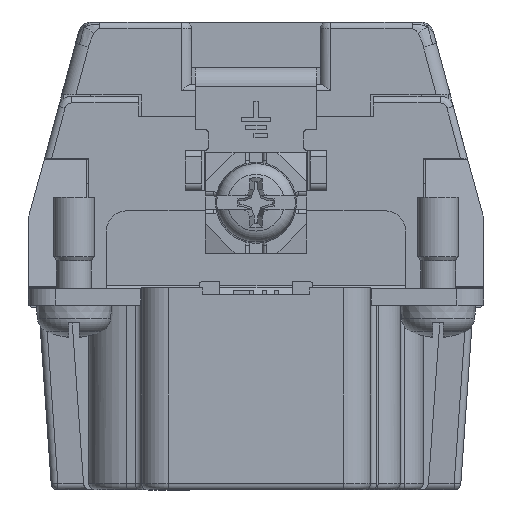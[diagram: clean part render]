
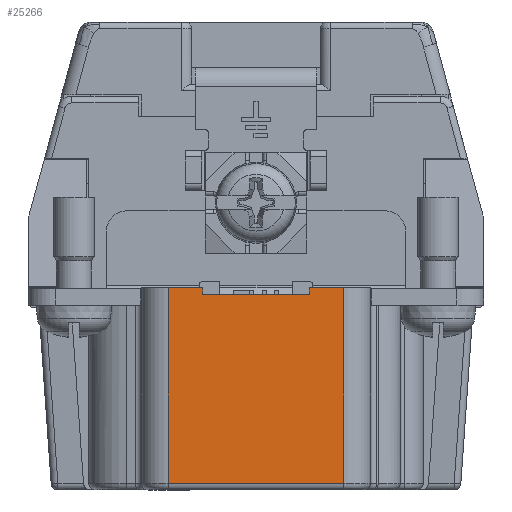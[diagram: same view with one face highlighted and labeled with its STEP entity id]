
A CAD part, left-side view. The second image highlights one B-rep face of the part: STEP entity #25266.
In plain terms, the highlighted planar face has unit normal (-1, 0, 0).
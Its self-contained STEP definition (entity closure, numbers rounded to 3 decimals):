
#17628=CARTESIAN_POINT('',(-41.35,3.95,-7.1));
#17629=VERTEX_POINT('',#17628);
#17670=CARTESIAN_POINT('',(-41.35,6.5,-7.1));
#17671=VERTEX_POINT('',#17670);
#17679=CARTESIAN_POINT('',(-41.35,3.95,-7.1));
#17680=DIRECTION('',(0.0,1.0,0.0));
#17681=VECTOR('',#17680,2.55);
#17682=LINE('',#17679,#17681);
#17683=EDGE_CURVE('',#17629,#17671,#17682,.T.);
#18025=CARTESIAN_POINT('',(-41.35,-3.95,-7.1));
#18026=VERTEX_POINT('',#18025);
#18033=CARTESIAN_POINT('',(-41.35,-6.5,-7.1));
#18034=VERTEX_POINT('',#18033);
#18035=CARTESIAN_POINT('',(-41.35,-6.5,-7.1));
#18036=DIRECTION('',(0.0,1.0,0.0));
#18037=VECTOR('',#18036,2.55);
#18038=LINE('',#18035,#18037);
#18039=EDGE_CURVE('',#18034,#18026,#18038,.T.);
#18311=CARTESIAN_POINT('',(-41.35,-3.95,-7.6));
#18312=VERTEX_POINT('',#18311);
#18313=CARTESIAN_POINT('',(-41.35,3.95,-7.6));
#18314=VERTEX_POINT('',#18313);
#18315=CARTESIAN_POINT('',(-41.35,-3.95,-7.6));
#18316=DIRECTION('',(0.0,1.0,0.0));
#18317=VECTOR('',#18316,7.9);
#18318=LINE('',#18315,#18317);
#18319=EDGE_CURVE('',#18312,#18314,#18318,.T.);
#18479=CARTESIAN_POINT('',(-41.35,3.95,-7.6));
#18480=DIRECTION('',(0.0,0.0,1.0));
#18481=VECTOR('',#18480,0.5);
#18482=LINE('',#18479,#18481);
#18483=EDGE_CURVE('',#18314,#17629,#18482,.T.);
#18494=CARTESIAN_POINT('',(-41.35,-3.95,-7.1));
#18495=DIRECTION('',(0.0,0.0,-1.0));
#18496=VECTOR('',#18495,0.5);
#18497=LINE('',#18494,#18496);
#18498=EDGE_CURVE('',#18026,#18312,#18497,.T.);
#25219=CARTESIAN_POINT('',(-41.35,-6.5,-21.6));
#25220=VERTEX_POINT('',#25219);
#25230=CARTESIAN_POINT('',(-41.35,-6.5,-7.1));
#25231=DIRECTION('',(0.0,0.0,-1.0));
#25232=VECTOR('',#25231,14.5);
#25233=LINE('',#25230,#25232);
#25234=EDGE_CURVE('',#18034,#25220,#25233,.T.);
#25239=CARTESIAN_POINT('',(-41.35,6.5,-8.6));
#25240=DIRECTION('',(-1.0,0.0,0.0));
#25241=DIRECTION('',(0.0,0.0,1.0));
#25242=AXIS2_PLACEMENT_3D('',#25239,#25240,#25241);
#25243=PLANE('',#25242);
#25244=CARTESIAN_POINT('',(-41.35,6.5,-21.6));
#25245=VERTEX_POINT('',#25244);
#25246=CARTESIAN_POINT('',(-41.35,-6.5,-21.6));
#25247=DIRECTION('',(0.0,1.0,0.0));
#25248=VECTOR('',#25247,13.);
#25249=LINE('',#25246,#25248);
#25250=EDGE_CURVE('',#25220,#25245,#25249,.T.);
#25251=ORIENTED_EDGE('',*,*,#25250,.F.);
#25252=ORIENTED_EDGE('',*,*,#25234,.F.);
#25253=ORIENTED_EDGE('',*,*,#18039,.T.);
#25254=ORIENTED_EDGE('',*,*,#18498,.T.);
#25255=ORIENTED_EDGE('',*,*,#18319,.T.);
#25256=ORIENTED_EDGE('',*,*,#18483,.T.);
#25257=ORIENTED_EDGE('',*,*,#17683,.T.);
#25258=CARTESIAN_POINT('',(-41.35,6.5,-7.1));
#25259=DIRECTION('',(0.0,0.0,-1.0));
#25260=VECTOR('',#25259,14.5);
#25261=LINE('',#25258,#25260);
#25262=EDGE_CURVE('',#17671,#25245,#25261,.T.);
#25263=ORIENTED_EDGE('',*,*,#25262,.T.);
#25264=EDGE_LOOP('',(#25251,#25252,#25253,#25254,#25255,#25256,#25257,#25263));
#25265=FACE_OUTER_BOUND('',#25264,.T.);
#25266=ADVANCED_FACE('',(#25265),#25243,.T.);
